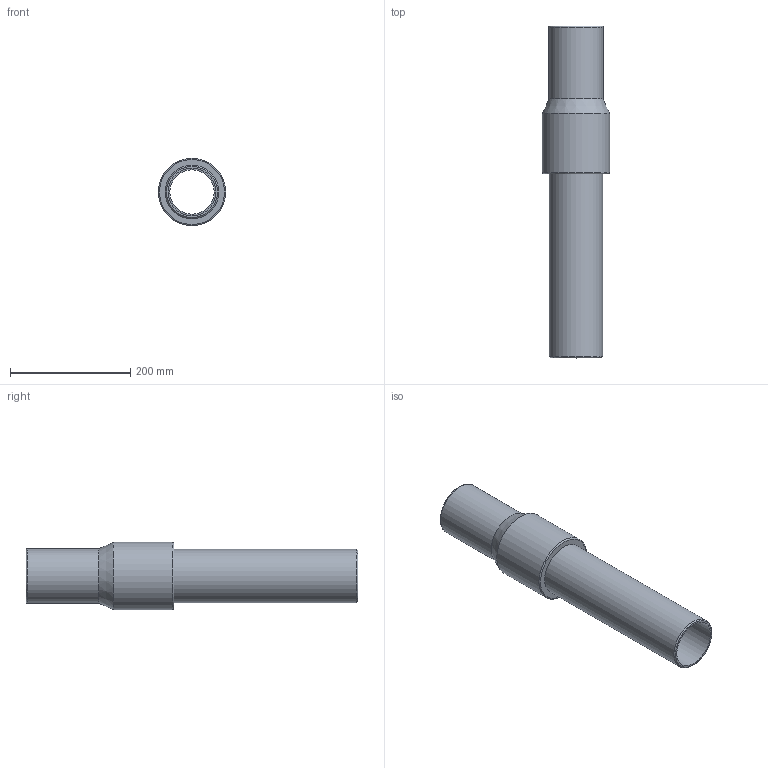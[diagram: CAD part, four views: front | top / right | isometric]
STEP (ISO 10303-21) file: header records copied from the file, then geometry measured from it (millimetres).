
FILE_DESCRIPTION(/* description */ ('Unknown'),/* implementation_level */ '2;1');
FILE_NAME(/* name */ 'RTSNP090C',/* time_stamp */ '2022-04-26T17:23:50+02:00',/* author */ ('Unknown'),/* organization */ ('Unknown'),/* preprocessor_version */ 'ST-DEVELOPER v18.1',/* originating_system */ 'Solid Edge',/* authorisation */ 'Unknown');
FILE_SCHEMA (('AUTOMOTIVE_DESIGN {1 0 10303 214 3 1 1}'));
Length unit declared in the file: millimetre
Products named in the file (3): RTSNP090C; Parte PE_; Partea ACCIAIO
Assembly tree (2 placements, depth 2):
  RTSNP090C
    Parte PE_
    Partea ACCIAIO
Bounding box: 112 x 552 x 112 mm (x, y, z)
Volume: 1231911.2 mm3; surface area: 360292.4 mm2
Topology: 2 solids, 2 shells, 15 faces, 27 edges, 17 vertices
Faces by surface type: cylinder 6, plane 5, cone 2, torus 2
Full cylindrical faces by diameter (mm): 73.6 x1, 79.34 x1, 88.9 x2, 90 x1, 112 x1
Entity records: 388 total; most frequent: DIRECTION 66, CARTESIAN_POINT 48, AXIS2_PLACEMENT_3D 33, ORIENTED_EDGE 30, EDGE_LOOP 30, FACE_BOUND 30, EDGE_CURVE 15, VERTEX_POINT 15
